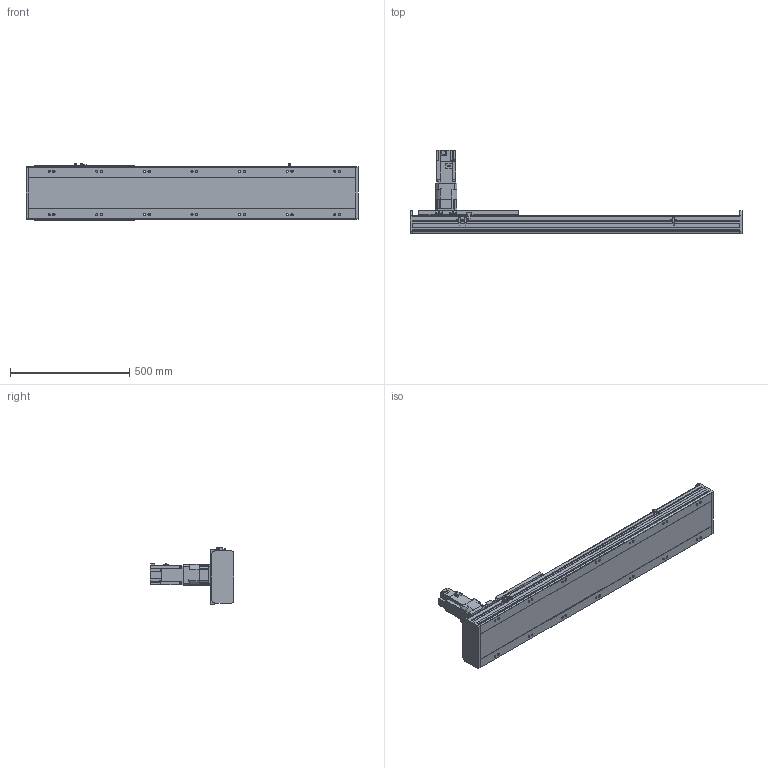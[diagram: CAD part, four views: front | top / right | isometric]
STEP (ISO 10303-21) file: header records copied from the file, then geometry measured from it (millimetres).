
FILE_DESCRIPTION(/* description */ ('STEP AP214'),/* implementation_level */ '2;1');
FILE_NAME(/* name */ 'SHS22A-L13-S900-BC-T75-C1-N(0)',/* time_stamp */ '2022-06-15T02:26:00+02:00',/* author */ ('License CC BY-ND 4.0'),/* organization */ ('CADENAS'),/* preprocessor_version */ 'ST-DEVELOPER v18.102',/* originating_system */ 'PARTsolutions',/* authorisation */ ' ');
FILE_SCHEMA (('AUTOMOTIVE_DESIGN {1 0 10303 214 3 1 1}'));
Length unit declared in the file: millimetre
Products named in the file (7): SHS22A-L13-S900-BC-T75-C1-N(0); PSC140-sensor; SHS22A-S900_body2; T75-p1; SHS22A-S900_body3; SHS22A-S900_slider; SHS22A-L13-S900-BC-T75-C1(0)_body
Assembly tree (13 placements, depth 2):
  SHS22A-L13-S900-BC-T75-C1-N(0)
    PSC140-sensor  x3
    SHS22A-S900_body2  x6
    T75-p1
    SHS22A-S900_body3
    SHS22A-S900_slider
    SHS22A-L13-S900-BC-T75-C1(0)_body
Bounding box: 1394 x 350.8 x 238.4 mm (x, y, z)
Volume: 17408475.2 mm3; surface area: 1887660.4 mm2
Topology: 13 solids, 13 shells, 1785 faces, 4611 edges, 3022 vertices
Faces by surface type: plane 1308, cylinder 389, cone 79, torus 9
Full cylindrical faces by diameter (mm): 2.8 x3, 4.2 x2, 4.6 x3, 4.917 x4, 5 x4, 5.6 x24, 6 x31, 6.6 x24, 6.647 x8, 6.8 x9, 7.75 x6, 8 x3, 8.376 x14, 8.5 x14, 10 x4, 11 x4, 12 x24, 14 x14, 22 x1, 24.1 x1, 28 x1, 28.2 x1, 28.8 x1, 48.542 x1, 68 x1, 70 x1, 78 x1, 80 x2
Entity records: 28787 total; most frequent: CARTESIAN_POINT 5075, DIRECTION 4865, ORIENTED_EDGE 4512, EDGE_CURVE 2256, AXIS2_PLACEMENT_3D 1654, VERTEX_POINT 1598, LINE 1557, VECTOR 1557
